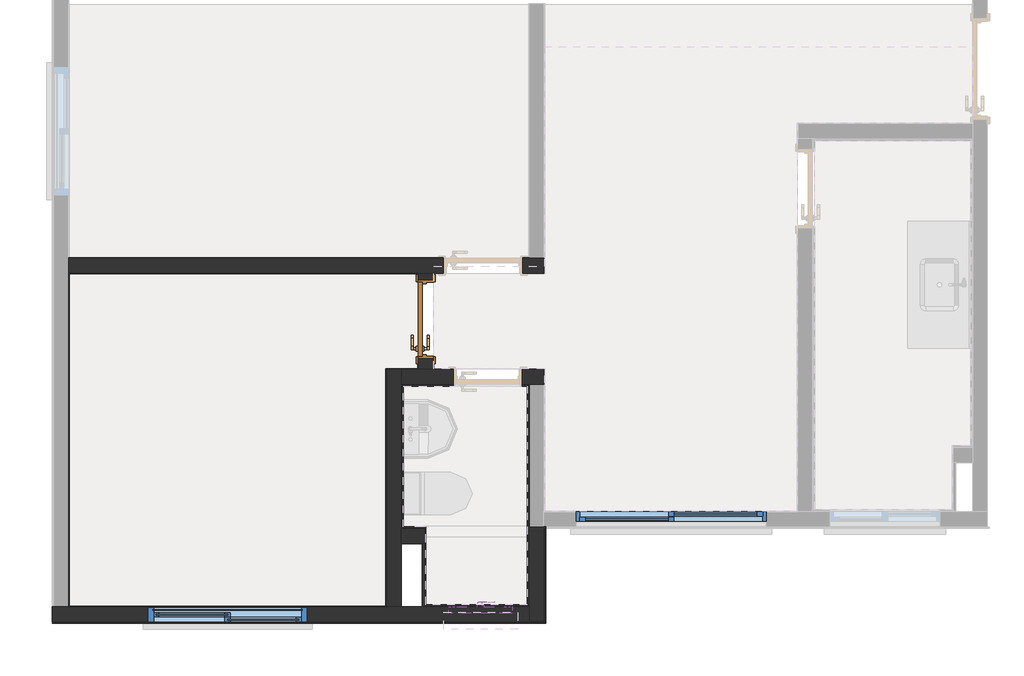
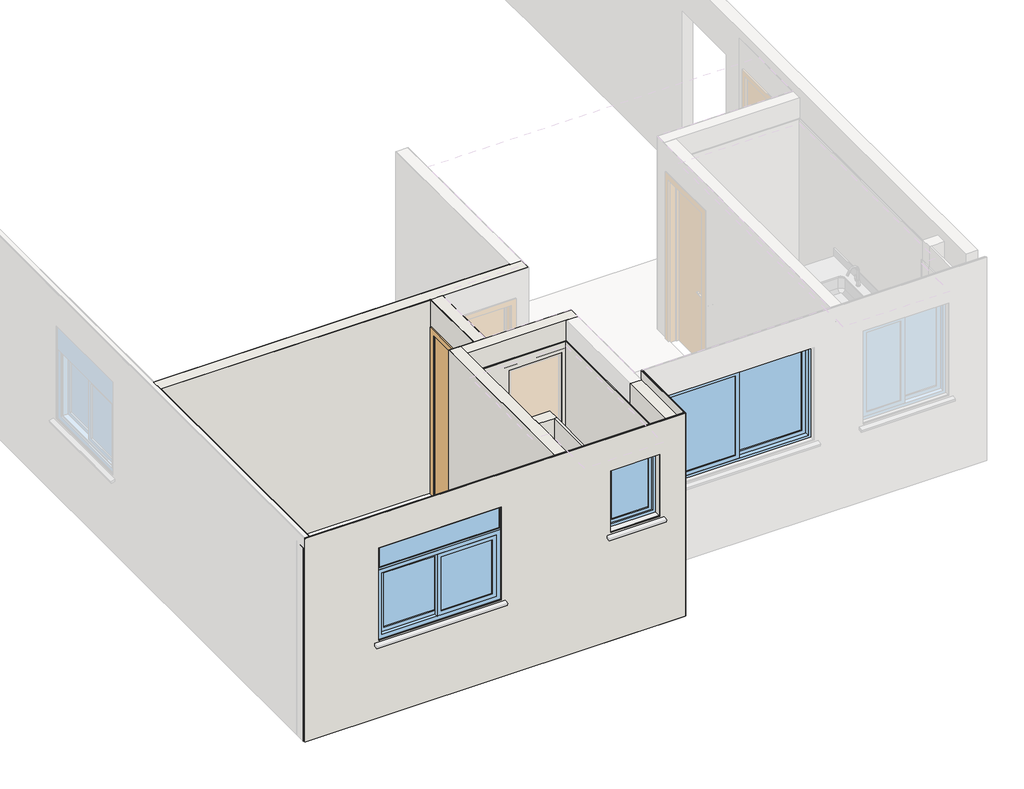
# One storey, part 1 of 11: 26 walls, 3 windows, 1 door.
"""IFC4 building model written with IfcOpenShell, lengths in millimetres."""

from ifc_helpers import new_model, si_unit, frame, origin, origin_with_axes, place, context, project, spatial, polyline, outline, extrude, faceted_brep, transform, mapped, element, save
from components import porta_de_madeira_interna_70_x_210_porta_de_madeira_interna_d0067c94, window_150x120_581fea6a, window_180x120_f0fd8075, window_60x80_d31b0025

model = new_model("IFC4")

# Units and contexts
model_context = context("Model", 3, world=origin())
ifc_project = project(units=[si_unit("LENGTHUNIT", "METRE", prefix="MILLI")], contexts=[model_context])

# Site, building, storey
site = spatial("IfcSite", under=ifc_project)
building = spatial("IfcBuilding", under=site)
storey = spatial("IfcBuildingStorey", under=building, Name="Térreo", Elevation=0.0)

# Door
placement = place(None, origin())
porta_de_madeira_interna_70_x_210_porta_de_madeira_interna_shape = porta_de_madeira_interna_70_x_210_porta_de_madeira_interna_d0067c94(model_context)
element("IfcDoor", 1, ObjectType="Porta de Madeira Interna 70 x 210 : Porta de Madeira Interna 70 x 210", at=placement, inside=storey, context=model_context, shape_type="MappedRepresentation", body=[
    mapped(porta_de_madeira_interna_70_x_210_porta_de_madeira_interna_shape, transform((3546.8230641, 3342.9958256, 0.0), x_axis=(0.0, 1.0, 0.0), y_axis=(-1.0, 0.0, 0.0), z_axis=(0.0, 0.0, 1.0))),
])

# Walls
element("IfcWall", 2, ObjectType="Mureta box", at=placement, inside=storey, context=model_context, shape_type="SweptSolid", body=[
    extrude(outline(polyline([(4509.99398, 1294.9970972), (3529.99398, 1294.9970972), (3529.99398, 1304.9970972), (4509.99398, 1304.9970972), (4509.99398, 1294.9970972)])), origin_with_axes(), (0.0, 0.0, 1.0), 90.0),
    extrude(outline(polyline([(3529.99398, 1374.9970972), (4509.99398, 1374.9970972), (4509.99398, 1364.9970972), (3529.99398, 1364.9970972), (3529.99398, 1374.9970972)])), origin_with_axes(), (0.0, 0.0, 1.0), 90.0),
    extrude(outline(polyline([(3529.99398, 1304.9970972), (3529.99398, 1364.9970972), (4509.99398, 1364.9970972), (4509.99398, 1304.9970972), (3529.99398, 1304.9970972)])), origin_with_axes(), (0.0, 0.0, 1.0), 90.0),
    extrude(outline(polyline([(4509.99398, 1294.9970972), (3529.99398, 1294.9970972), (3529.99398, 1304.9970972), (4509.99398, 1304.9970972), (4509.99398, 1294.9970972)])), origin_with_axes(), (0.0, 0.0, 1.0), 90.0),
    extrude(outline(polyline([(3529.99398, 1374.9970972), (4509.99398, 1374.9970972), (4509.99398, 1364.9970972), (3529.99398, 1364.9970972), (3529.99398, 1374.9970972)])), origin_with_axes(), (0.0, 0.0, 1.0), 90.0),
    extrude(outline(polyline([(3529.99398, 1304.9970972), (3529.99398, 1364.9970972), (4509.99398, 1364.9970972), (4509.99398, 1304.9970972), (3529.99398, 1304.9970972)])), origin_with_axes(), (0.0, 0.0, 1.0), 90.0),
])
element("IfcWall", 3, ObjectType="Alvenaria Estrutural", at=placement, inside=storey, context=model_context, shape_type="Brep", body=[
    faceted_brep([(175.9991825, 3779.9951411, 0.0), (169.9991825, 3779.9951411, 0.0), (169.9991825, 3919.9951411, 0.0), (175.9991825, 3919.9951411, 0.0), (3717.999908, 3919.9951411, 0.0), (3717.999908, 3779.9951411, 0.0), (3625.9980641, 3779.9951411, 0.0), (3619.9980641, 3779.9951411, 0.0), (3479.9980641, 3779.9951411, 0.0), (3473.9980641, 3779.9951411, 0.0), (3625.9980641, 3779.9951411, 2510.0), (4669.9996867, 3779.9951411, 2510.0), (4669.9996867, 3919.9951411, 2510.0), (4529.9996867, 3919.9951411, 2510.0), (4523.9996867, 3919.9951411, 2510.0), (175.9991825, 3919.9951411, 2510.0), (169.9991825, 3919.9951411, 2510.0), (169.9991825, 3779.9951411, 2510.0), (175.9991825, 3779.9951411, 2510.0), (3473.9980641, 3779.9951411, 2510.0), (3479.9980641, 3779.9951411, 2510.0), (3619.9980641, 3779.9951411, 2510.0), (4467.999908, 3779.9951411, 0.0), (4467.999908, 3779.9951411, 2125.0), (4467.999908, 3919.9951411, 2125.0), (4467.999908, 3919.9951411, 0.0), (3717.999908, 3779.9951411, 2125.0), (3717.999908, 3919.9951411, 2125.0), (4669.9996867, 3779.9951411, 0.0), (4523.9996867, 3919.9951411, 0.0), (4529.9996867, 3919.9951411, 0.0), (4669.9996867, 3919.9951411, 0.0)], [[[0, 1, 2, 3, 4, 5, 6, 7, 8, 9]], [[10, 11, 12, 13, 14, 15, 16, 17, 18, 19, 20, 21]], [[22, 23, 24, 25]], [[23, 26, 27, 24]], [[26, 5, 4, 27]], [[28, 22, 25, 29, 30, 31]], [[16, 15, 14, 13, 12, 31, 30, 29, 25, 24, 27, 4, 3, 2]], [[11, 10, 21, 20, 19, 18, 17, 1, 0, 9, 8, 7, 6, 5, 26, 23, 22, 28]], [[11, 28, 31, 12]], [[1, 17, 16, 2]]]),
    faceted_brep([(4669.9996867, 3779.9951411, 2510.0), (3625.9980641, 3779.9951411, 2510.0), (3619.9980641, 3779.9951411, 2510.0), (3479.9980641, 3779.9951411, 2510.0), (3473.9980641, 3779.9951411, 2510.0), (175.9991825, 3779.9951411, 2510.0), (169.9991825, 3779.9951411, 2510.0), (169.9991825, 3779.9951411, 0.0), (175.9991825, 3779.9951411, 0.0), (3473.9980641, 3779.9951411, 0.0), (3479.9980641, 3779.9951411, 0.0), (3619.9980641, 3779.9951411, 0.0), (3625.9980641, 3779.9951411, 0.0), (3717.999908, 3779.9951411, 0.0), (3717.999908, 3779.9951411, 2125.0), (4467.999908, 3779.9951411, 2125.0), (4467.999908, 3779.9951411, 0.0), (4669.9996867, 3779.9951411, 0.0), (169.9991825, 3919.9951411, 2510.0), (175.9991825, 3919.9951411, 2510.0), (4523.9996867, 3919.9951411, 2510.0), (4529.9996867, 3919.9951411, 2510.0), (4669.9996867, 3919.9951411, 2510.0), (4669.9996867, 3919.9951411, 0.0), (4529.9996867, 3919.9951411, 0.0), (4523.9996867, 3919.9951411, 0.0), (4467.999908, 3919.9951411, 0.0), (4467.999908, 3919.9951411, 2125.0), (3717.999908, 3919.9951411, 2125.0), (3717.999908, 3919.9951411, 0.0), (175.9991825, 3919.9951411, 0.0), (169.9991825, 3919.9951411, 0.0)], [[[0, 1, 2, 3, 4, 5, 6, 7, 8, 9, 10, 11, 12, 13, 14, 15, 16, 17]], [[18, 19, 20, 21, 22, 23, 24, 25, 26, 27, 28, 29, 30, 31]], [[8, 7, 31, 30, 29, 13, 12, 11, 10, 9]], [[1, 0, 22, 21, 20, 19, 18, 6, 5, 4, 3, 2]], [[16, 15, 27, 26]], [[15, 14, 28, 27]], [[14, 13, 29, 28]], [[0, 17, 23, 22]], [[7, 6, 18, 31]], [[17, 16, 26, 25, 24, 23]]]),
])
element("IfcWall", 4, ObjectType="Alvenaria Estrutural", at=placement, inside=storey, context=model_context, shape_type="Brep", body=[
    faceted_brep([(3479.9980641, 2875.9967615, 2510.0), (3479.9980641, 2869.9967615, 2510.0), (3619.9980641, 2869.9967615, 2510.0), (3619.9980641, 2875.9967615, 2510.0), (3619.9980641, 3773.9951411, 2510.0), (3619.9980641, 3779.9951411, 2510.0), (3479.9980641, 3779.9951411, 2510.0), (3479.9980641, 3717.9958256, 2125.0), (3479.9980641, 3717.9958256, 0.0), (3619.9980641, 3717.9958256, 0.0), (3619.9980641, 3717.9958256, 2125.0), (3479.9980641, 2967.9958256, 2125.0), (3619.9980641, 2967.9958256, 2125.0), (3479.9980641, 2967.9958256, 0.0), (3619.9980641, 2967.9958256, 0.0), (3619.9980641, 2869.9967615, 0.0), (3619.9980641, 2875.9967615, 0.0), (3619.9980641, 3773.9951411, 0.0), (3619.9980641, 3779.9951411, 0.0), (3479.9980641, 3779.9951411, 0.0), (3479.9980641, 2875.9967615, 0.0), (3479.9980641, 2869.9967615, 0.0)], [[[0, 1, 2, 3, 4, 5, 6]], [[7, 8, 9, 10]], [[11, 7, 10, 12]], [[13, 11, 12, 14]], [[5, 4, 3, 2, 15, 16, 14, 12, 10, 9, 17, 18]], [[1, 0, 6, 19, 8, 7, 11, 13, 20, 21]], [[8, 19, 18, 17, 9]], [[1, 21, 15, 2]], [[19, 6, 5, 18]], [[20, 13, 14, 16, 15, 21]]]),
    faceted_brep([(3479.9980641, 2869.9967615, 2510.0), (3479.9980641, 2875.9967615, 2510.0), (3479.9980641, 3779.9951411, 2510.0), (3479.9980641, 3779.9951411, 0.0), (3479.9980641, 3717.9958256, 0.0), (3479.9980641, 3717.9958256, 2125.0), (3479.9980641, 2967.9958256, 2125.0), (3479.9980641, 2967.9958256, 0.0), (3479.9980641, 2875.9967615, 0.0), (3479.9980641, 2869.9967615, 0.0), (3619.9980641, 3779.9951411, 2510.0), (3619.9980641, 3773.9951411, 2510.0), (3619.9980641, 2875.9967615, 2510.0), (3619.9980641, 2869.9967615, 2510.0), (3619.9980641, 2869.9967615, 0.0), (3619.9980641, 2875.9967615, 0.0), (3619.9980641, 2967.9958256, 0.0), (3619.9980641, 2967.9958256, 2125.0), (3619.9980641, 3717.9958256, 2125.0), (3619.9980641, 3717.9958256, 0.0), (3619.9980641, 3773.9951411, 0.0), (3619.9980641, 3779.9951411, 0.0)], [[[0, 1, 2, 3, 4, 5, 6, 7, 8, 9]], [[10, 11, 12, 13, 14, 15, 16, 17, 18, 19, 20, 21]], [[4, 3, 21, 20, 19]], [[1, 0, 13, 12, 11, 10, 2]], [[5, 4, 19, 18]], [[6, 5, 18, 17]], [[7, 6, 17, 16]], [[0, 9, 14, 13]], [[3, 2, 10, 21]], [[8, 7, 16, 15, 14, 9]]]),
])
element("IfcWall", 5, ObjectType="Alvenaria Estrutural", at=placement, inside=storey, context=model_context, shape_type="Brep", body=[
    faceted_brep([(3319.9976538, 1219.9970972, 0.0), (3516.99398, 1219.9970972, 0.0), (3539.99398, 1219.9970972, 0.0), (3539.99398, 1219.9970972, 2510.0), (3516.99398, 1219.9970972, 2510.0), (3319.9976538, 1219.9970972, 2510.0), (3319.9976538, 1359.9970972, 0.0), (3539.99398, 1359.9970972, 0.0), (3539.99398, 1359.9970972, 2510.0), (3319.9976538, 1359.9970972, 2510.0)], [[[0, 1, 2, 3, 4, 5]], [[1, 0, 6, 7, 2]], [[4, 3, 8, 9, 5]], [[6, 9, 8, 7]], [[3, 2, 7, 8]], [[0, 5, 9, 6]]]),
    faceted_brep([(3319.9976538, 1219.9970972, 0.0), (3516.99398, 1219.9970972, 0.0), (3539.99398, 1219.9970972, 0.0), (3539.99398, 1219.9970972, 2510.0), (3516.99398, 1219.9970972, 2510.0), (3319.9976538, 1219.9970972, 2510.0), (3319.9976538, 1359.9970972, 0.0), (3319.9976538, 1359.9970972, 2510.0), (3539.99398, 1359.9970972, 2510.0), (3539.99398, 1359.9970972, 0.0)], [[[0, 1, 2, 3, 4, 5]], [[6, 7, 8, 9]], [[1, 0, 6, 9, 2]], [[4, 3, 8, 7, 5]], [[3, 2, 9, 8]], [[0, 5, 7, 6]]]),
])
element("IfcWall", 6, ObjectType="Alvenaria Estrutural", at=placement, inside=storey, context=model_context, shape_type="Brep", body=[
    faceted_brep([(3319.9976538, 1219.9970972, 0.0), (3319.9976538, 619.9952456, 0.0), (3179.9976538, 619.9952456, 0.0), (3179.9976538, 625.9952456, 0.0), (3179.9976538, 2869.9967615, 0.0), (3319.9976538, 2869.9967615, 0.0), (3319.9976538, 2729.9967615, 0.0), (3319.9976538, 2709.9967615, 0.0), (3319.9976538, 1379.9970972, 0.0), (3319.9976538, 1359.9970972, 0.0), (3319.9976538, 2729.9967615, 2510.0), (3319.9976538, 2869.9967615, 2510.0), (3179.9976538, 2869.9967615, 2510.0), (3179.9976538, 625.9952456, 2510.0), (3179.9976538, 619.9952456, 2510.0), (3319.9976538, 619.9952456, 2510.0), (3319.9976538, 1219.9970972, 2510.0), (3319.9976538, 1359.9970972, 2510.0)], [[[0, 1, 2, 3, 4, 5, 6, 7, 8, 9]], [[10, 11, 12, 13, 14, 15, 16, 17]], [[1, 0, 9, 8, 7, 6, 5, 11, 10, 17, 16, 15]], [[2, 14, 13, 12, 4, 3]], [[11, 5, 4, 12]], [[1, 15, 14, 2]]]),
    faceted_brep([(3319.9976538, 619.9952456, 0.0), (3319.9976538, 1219.9970972, 0.0), (3319.9976538, 1359.9970972, 0.0), (3319.9976538, 1379.9970972, 0.0), (3319.9976538, 2709.9967615, 0.0), (3319.9976538, 2729.9967615, 0.0), (3319.9976538, 2869.9967615, 0.0), (3319.9976538, 2869.9967615, 2510.0), (3319.9976538, 2729.9967615, 2510.0), (3319.9976538, 1359.9970972, 2510.0), (3319.9976538, 1219.9970972, 2510.0), (3319.9976538, 619.9952456, 2510.0), (3179.9976538, 619.9952456, 0.0), (3179.9976538, 619.9952456, 2510.0), (3179.9976538, 625.9952456, 2510.0), (3179.9976538, 2869.9967615, 2510.0), (3179.9976538, 2869.9967615, 0.0), (3179.9976538, 625.9952456, 0.0)], [[[0, 1, 2, 3, 4, 5, 6, 7, 8, 9, 10, 11]], [[12, 13, 14, 15, 16, 17]], [[1, 0, 12, 17, 16, 6, 5, 4, 3, 2]], [[8, 7, 15, 14, 13, 11, 10, 9]], [[7, 6, 16, 15]], [[0, 11, 13, 12]]]),
])
element("IfcWall", 7, ObjectType="Alvenaria Estrutural", at=placement, inside=storey, context=model_context, shape_type="Brep", body=[
    faceted_brep([(3812.9990083, 2729.9967615, 0.0), (3319.9976538, 2729.9967615, 0.0), (3319.9976538, 2869.9967615, 0.0), (3479.9980641, 2869.9967615, 0.0), (3619.9980641, 2869.9967615, 0.0), (3625.9980641, 2869.9967615, 0.0), (3812.9990083, 2869.9967615, 0.0), (4529.9990083, 2729.9967615, 2510.0), (4669.9990083, 2729.9967615, 2510.0), (4669.9990083, 2869.9967615, 2510.0), (3625.9980641, 2869.9967615, 2510.0), (3619.9980641, 2869.9967615, 2510.0), (3479.9980641, 2869.9967615, 2510.0), (3319.9976538, 2869.9967615, 2510.0), (3319.9976538, 2729.9967615, 2510.0), (4462.9990083, 2729.9967615, 0.0), (4462.9990083, 2729.9967615, 2125.0), (4462.9990083, 2869.9967615, 2125.0), (4462.9990083, 2869.9967615, 0.0), (3812.9990083, 2729.9967615, 2125.0), (3812.9990083, 2869.9967615, 2125.0), (4529.9990083, 2729.9967615, 0.0), (4669.9990083, 2869.9967615, 0.0), (4669.9990083, 2729.9967615, 0.0)], [[[0, 1, 2, 3, 4, 5, 6]], [[7, 8, 9, 10, 11, 12, 13, 14]], [[15, 16, 17, 18]], [[16, 19, 20, 17]], [[19, 0, 6, 20]], [[21, 15, 18, 22, 23]], [[13, 12, 11, 10, 9, 22, 18, 17, 20, 6, 5, 4, 3, 2]], [[8, 7, 14, 1, 0, 19, 16, 15, 21, 23]], [[8, 23, 22, 9]], [[1, 14, 13, 2]]]),
    faceted_brep([(4669.9990083, 2729.9967615, 2510.0), (4529.9990083, 2729.9967615, 2510.0), (3319.9976538, 2729.9967615, 2510.0), (3319.9976538, 2729.9967615, 0.0), (3812.9990083, 2729.9967615, 0.0), (3812.9990083, 2729.9967615, 2125.0), (4462.9990083, 2729.9967615, 2125.0), (4462.9990083, 2729.9967615, 0.0), (4529.9990083, 2729.9967615, 0.0), (4669.9990083, 2729.9967615, 0.0), (3319.9976538, 2869.9967615, 2510.0), (3479.9980641, 2869.9967615, 2510.0), (3619.9980641, 2869.9967615, 2510.0), (3625.9980641, 2869.9967615, 2510.0), (4669.9990083, 2869.9967615, 2510.0), (4669.9990083, 2869.9967615, 0.0), (4462.9990083, 2869.9967615, 0.0), (4462.9990083, 2869.9967615, 2125.0), (3812.9990083, 2869.9967615, 2125.0), (3812.9990083, 2869.9967615, 0.0), (3625.9980641, 2869.9967615, 0.0), (3619.9980641, 2869.9967615, 0.0), (3479.9980641, 2869.9967615, 0.0), (3319.9976538, 2869.9967615, 0.0)], [[[0, 1, 2, 3, 4, 5, 6, 7, 8, 9]], [[10, 11, 12, 13, 14, 15, 16, 17, 18, 19, 20, 21, 22, 23]], [[4, 3, 23, 22, 21, 20, 19]], [[1, 0, 14, 13, 12, 11, 10, 2]], [[7, 6, 17, 16]], [[6, 5, 18, 17]], [[5, 4, 19, 18]], [[0, 9, 15, 14]], [[3, 2, 10, 23]], [[8, 7, 16, 15, 9]]]),
])
element("IfcWall", 8, ObjectType="Alvenaria Estrutural", at=placement, inside=storey, context=model_context, shape_type="Brep", body=[
    faceted_brep([(4669.9986472, 1374.9970972, 0.0), (4669.9986472, 479.9952456, 0.0), (4529.9986472, 479.9952456, 0.0), (4529.9986472, 619.9952456, 0.0), (4529.9986472, 1374.9970972, 0.0), (4669.9986472, 1374.9970972, 2510.0), (4529.9986472, 1374.9970972, 2510.0), (4669.9986472, 479.9952456, 2510.0), (4529.9986472, 619.9952456, 2510.0), (4529.9986472, 479.9952456, 2510.0)], [[[0, 1, 2, 3, 4]], [[5, 0, 4, 6]], [[7, 5, 6, 8, 9]], [[2, 9, 8, 6, 4, 3]], [[1, 0, 5, 7]], [[1, 7, 9, 2]]]),
    faceted_brep([(4669.9986472, 479.9952456, 0.0), (4669.9986472, 1374.9970972, 0.0), (4669.9986472, 1374.9970972, 2510.0), (4669.9986472, 479.9952456, 2510.0), (4529.9986472, 479.9952456, 0.0), (4529.9986472, 479.9952456, 2510.0), (4529.9986472, 619.9952456, 2510.0), (4529.9986472, 1374.9970972, 2510.0), (4529.9986472, 1374.9970972, 0.0), (4529.9986472, 619.9952456, 0.0)], [[[0, 1, 2, 3]], [[4, 5, 6, 7, 8, 9]], [[1, 0, 4, 9, 8]], [[2, 1, 8, 7]], [[3, 2, 7, 6, 5]], [[0, 3, 5, 4]]]),
])
element("IfcWall", 9, ObjectType="Alvenaria Estrutural", at=placement, inside=storey, context=model_context, shape_type="Brep", body=[
    faceted_brep([(14.9976538, 479.9952456, 0.0), (4529.9986472, 479.9952456, 0.0), (4529.9986472, 479.9952456, 2510.0), (14.9976538, 479.9952456, 2510.0), (3719.9986472, 479.9952456, 1351.3083694), (3719.9986472, 479.9952456, 1400.0), (3769.9986472, 479.9952456, 1400.0), (3769.9986472, 479.9952456, 2200.0), (4369.9986472, 479.9952456, 2200.0), (4369.9986472, 479.9952456, 1400.0), (4419.9986472, 479.9952456, 1400.0), (4419.9986472, 479.9952456, 1351.3083694), (874.9984443, 479.9952456, 951.3083694), (874.9984443, 479.9952456, 1000.0), (924.9984443, 479.9952456, 1000.0), (924.9984443, 479.9952456, 2200.0), (2424.9984443, 479.9952456, 2200.0), (2424.9984443, 479.9952456, 1000.0), (2474.9984443, 479.9952456, 1000.0), (2474.9984443, 479.9952456, 951.3083694), (4529.9986472, 619.9952456, 0.0), (4509.9990083, 619.9952456, 0.0), (3539.99398, 619.9952456, 0.0), (3516.99398, 619.9952456, 0.0), (3319.9976538, 619.9952456, 0.0), (3179.9976538, 619.9952456, 0.0), (175.9991825, 619.9952456, 0.0), (169.9991825, 619.9952456, 0.0), (14.9976538, 619.9952456, 0.0), (14.9976538, 619.9952456, 2510.0), (169.9991825, 619.9952456, 2510.0), (175.9991825, 619.9952456, 2510.0), (3179.9976538, 619.9952456, 2510.0), (3319.9976538, 619.9952456, 2510.0), (3516.99398, 619.9952456, 2510.0), (3539.99398, 619.9952456, 2510.0), (4529.9986472, 619.9952456, 2510.0), (4529.9986472, 619.9952456, 2250.0), (4369.9986472, 619.9952456, 1400.0), (4369.9986472, 619.9952456, 2200.0), (3769.9986472, 619.9952456, 2200.0), (3769.9986472, 619.9952456, 1400.0), (2424.9984443, 619.9952456, 1000.0), (2424.9984443, 619.9952456, 2200.0), (924.9984443, 619.9952456, 2200.0), (924.9984443, 619.9952456, 1000.0), (4529.9986472, 480.9952456, 0.0), (4529.9986472, 480.9952456, 2510.0), (874.9984443, 577.4952456, 972.0326341), (874.9984443, 577.4952456, 1000.0), (2474.9984443, 577.4952456, 1000.0), (2474.9984443, 577.4952456, 972.0326341), (2424.9984443, 577.4952456, 1000.0), (924.9984443, 577.4952456, 1000.0), (3719.9986472, 577.4952456, 1372.0326341), (3719.9986472, 577.4952456, 1400.0), (4419.9986472, 577.4952456, 1400.0), (4419.9986472, 577.4952456, 1372.0326341), (4369.9986472, 577.4952456, 1400.0), (3769.9986472, 577.4952456, 1400.0)], [[[0, 1, 2, 3], [4, 5, 6, 7, 8, 9, 10, 11], [12, 13, 14, 15, 16, 17, 18, 19]], [[20, 21, 22, 23, 24, 25, 26, 27, 28, 29, 30, 31, 32, 33, 34, 35, 36, 37], [38, 39, 40, 41], [42, 43, 44, 45]], [[1, 0, 28, 27, 26, 25, 24, 23, 22, 21, 20, 46]], [[29, 3, 2, 47, 36, 35, 34, 33, 32, 31, 30]], [[13, 12, 48, 49]], [[19, 18, 50, 51]], [[49, 48, 51, 50, 52, 53]], [[14, 13, 49, 53]], [[12, 19, 51, 48]], [[17, 16, 43, 42, 52]], [[16, 15, 44, 43]], [[15, 14, 53, 45, 44]], [[42, 45, 53, 52]], [[5, 4, 54, 55]], [[11, 10, 56, 57]], [[55, 54, 57, 56, 58, 59]], [[6, 5, 55, 59]], [[4, 11, 57, 54]], [[9, 8, 39, 38, 58]], [[8, 7, 40, 39]], [[7, 6, 59, 41, 40]], [[38, 41, 59, 58]], [[2, 1, 46, 20, 37, 36, 47]], [[10, 9, 58, 56]], [[18, 17, 52, 50]], [[0, 3, 29, 28]]]),
])
element("IfcWall", 10, ObjectType="Azulejo", at=placement, inside=storey, context=model_context, shape_type="SolidModel", body=[
    faceted_brep([(3812.9990083, 2719.9967615, 0.0), (3812.9990083, 2709.9967615, 0.0), (3339.9976538, 2709.9967615, 0.0), (3329.9976538, 2709.9967615, 0.0), (3329.9976538, 2719.9967615, 0.0), (3339.9976538, 2709.9967615, 2250.0), (4509.9990083, 2709.9967615, 2250.0), (4519.9990083, 2709.9967615, 2250.0), (4519.9990083, 2719.9967615, 2250.0), (3329.9976538, 2719.9967615, 2250.0), (3329.9976538, 2709.9967615, 2250.0), (4462.9990083, 2709.9967615, 0.0), (4462.9990083, 2709.9967615, 2125.0), (4462.9990083, 2719.9967615, 2125.0), (4462.9990083, 2719.9967615, 0.0), (3812.9990083, 2709.9967615, 2125.0), (3812.9990083, 2719.9967615, 2125.0), (4519.9990083, 2719.9967615, 0.0), (4519.9990083, 2709.9967615, 0.0), (4509.9990083, 2709.9967615, 0.0)], [[[0, 1, 2, 3, 4]], [[5, 6, 7, 8, 9, 10]], [[11, 12, 13, 14]], [[13, 12, 15, 16]], [[1, 0, 16, 15]], [[11, 14, 17, 18, 19]], [[14, 13, 16, 0, 4, 9, 8, 17]], [[2, 1, 15, 12, 11, 19, 18, 7, 6, 5, 10, 3]], [[4, 3, 10, 9]], [[8, 7, 18, 17]]]),
    extrude(outline(polyline([(0.0, 3319.9976538), (0.0, 3812.9990083), (2125.0, 3812.9990083), (2125.0, 4462.9990083), (0.0, 4462.9990083), (0.0, 4529.9990083), (2250.0, 4529.9990083), (2250.0, 3319.9976538), (0.0, 3319.9976538)])), frame((0.0, 2719.9967615, 0.0), z_axis=(0.0, 1.0, 0.0), x_axis=(0.0, 0.0, 1.0)), (0.0, 0.0, 1.0), 10.0),
])
element("IfcWall", 11, ObjectType="Azulejo", at=placement, inside=storey, context=model_context, shape_type="SolidModel", body=[
    faceted_brep([(4509.9990083, 639.9950349, 0.0), (4509.9990083, 2709.9967615, 0.0), (4519.9990083, 2709.9967615, 0.0), (4519.9990083, 629.9950349, 0.0), (4509.9990083, 629.9950349, 0.0), (4519.9990083, 2709.9967615, 2250.0), (4509.9990083, 2709.9967615, 2250.0), (4509.9990083, 639.9950349, 2250.0), (4509.9990083, 629.9950349, 2250.0), (4519.9990083, 629.9950349, 2250.0)], [[[0, 1, 2, 3, 4]], [[5, 6, 7, 8, 9]], [[2, 1, 6, 5]], [[2, 5, 9, 3]], [[1, 0, 4, 8, 7, 6]], [[4, 3, 9, 8]]]),
    extrude(outline(polyline([(4529.9990083, 2719.9967615), (4529.9990083, 619.9952456), (4519.9990083, 619.9952456), (4519.9990083, 2719.9967615), (4529.9990083, 2719.9967615)])), origin_with_axes(), (0.0, 0.0, 1.0), 2250.0),
])
element("IfcWall", 12, ObjectType="Azulejo", at=placement, inside=storey, context=model_context, shape_type="SolidModel", body=[
    faceted_brep([(3549.99398, 639.9950349, 0.0), (4509.9990083, 639.9950349, 0.0), (4509.9990083, 629.9950349, 0.0), (3539.99398, 629.9950349, 0.0), (3539.99398, 639.9950349, 0.0), (3549.99398, 639.9950349, 2250.0), (3539.99398, 639.9950349, 2250.0), (3539.99398, 629.9950349, 2250.0), (4509.9990083, 629.9950349, 2250.0), (4509.9990083, 639.9950349, 2250.0), (4369.9986472, 639.9950349, 2200.0), (4369.9986472, 639.9950349, 1400.0), (4369.9986472, 629.9950349, 1400.0), (4369.9986472, 629.9950349, 2200.0), (3769.9986472, 639.9950349, 2200.0), (3769.9986472, 629.9950349, 2200.0), (3769.9986472, 639.9950349, 1400.0), (3769.9986472, 629.9950349, 1400.0)], [[[0, 1, 2, 3, 4]], [[5, 6, 7, 8, 9]], [[1, 9, 8, 2]], [[6, 4, 3, 7]], [[10, 11, 12, 13]], [[14, 10, 13, 15]], [[16, 14, 15, 17]], [[11, 16, 17, 12]], [[3, 2, 8, 7], [13, 12, 17, 15]], [[1, 0, 4, 6, 5, 9], [11, 10, 14, 16]]]),
    extrude(outline(polyline([(0.0, 4519.9990083), (2250.0, 4519.9990083), (2250.0, 3539.99398), (0.0, 3539.99398), (0.0, 4519.9990083)]), holes=[polyline([(1400.0, 4369.9986472), (1400.0, 3769.9986472), (2200.0, 3769.9986472), (2200.0, 4369.9986472), (1400.0, 4369.9986472)])]), frame((0.0, 619.9950349, 0.0), z_axis=(0.0, 1.0, 0.0), x_axis=(0.0, 0.0, 1.0)), (0.0, 0.0, 1.0), 10.0),
])
element("IfcWall", 13, ObjectType="Azulejo", at=placement, inside=storey, context=model_context, shape_type="SweptSolid", body=[
    extrude(outline(polyline([(3549.99398, 1369.9970972), (3549.99398, 1219.9970972), (3539.99398, 1219.9970972), (3539.99398, 1369.9970972), (3549.99398, 1369.9970972)])), origin_with_axes(), (0.0, 0.0, 1.0), 2250.0),
    extrude(outline(polyline([(3529.99398, 1219.9970972), (3529.99398, 1359.9970972), (3539.99398, 1359.9970972), (3539.99398, 1219.9970972), (3529.99398, 1219.9970972)])), origin_with_axes(), (0.0, 0.0, 1.0), 2250.0),
])
element("IfcWall", 14, ObjectType="Azulejo", at=placement, inside=storey, context=model_context, shape_type="Brep", body=[
    faceted_brep([(3339.9976538, 1379.9970972, 0.0), (3549.99398, 1379.9970972, 0.0), (3549.99398, 1369.9970972, 0.0), (3329.9976538, 1369.9970972, 0.0), (3329.9976538, 1379.9970972, 0.0), (3549.99398, 1369.9970972, 2250.0), (3549.99398, 1379.9970972, 2250.0), (3339.9976538, 1379.9970972, 2250.0), (3329.9976538, 1379.9970972, 2250.0), (3329.9976538, 1369.9970972, 2250.0)], [[[0, 1, 2, 3, 4]], [[5, 6, 7, 8, 9]], [[2, 1, 6, 5]], [[2, 5, 9, 3]], [[1, 0, 4, 8, 7, 6]], [[4, 3, 9, 8]]]),
    faceted_brep([(3539.99398, 1369.9970972, 0.0), (3319.9976538, 1369.9970972, 0.0), (3319.9976538, 1369.9970972, 2250.0), (3539.99398, 1369.9970972, 2250.0), (3319.9976538, 1359.9970972, 0.0), (3529.99398, 1359.9970972, 0.0), (3539.99398, 1359.9970972, 0.0), (3539.99398, 1359.9970972, 2250.0), (3529.99398, 1359.9970972, 2250.0), (3319.9976538, 1359.9970972, 2250.0)], [[[0, 1, 2, 3]], [[4, 5, 6, 7, 8, 9]], [[5, 4, 1, 0, 6]], [[8, 7, 3, 2, 9]], [[4, 9, 2, 1]], [[7, 6, 0, 3]]]),
])
element("IfcWall", 15, ObjectType="Azulejo", at=placement, inside=storey, context=model_context, shape_type="SweptSolid", body=[
    extrude(outline(polyline([(3339.9976538, 2709.9967615), (3339.9976538, 1379.9970972), (3329.9976538, 1379.9970972), (3329.9976538, 2709.9967615), (3339.9976538, 2709.9967615)])), origin_with_axes(), (0.0, 0.0, 1.0), 2250.0),
    extrude(outline(polyline([(3319.9976538, 1369.9970972), (3319.9976538, 2719.9967615), (3329.9976538, 2719.9967615), (3329.9976538, 1369.9970972), (3319.9976538, 1369.9970972)])), origin_with_axes(), (0.0, 0.0, 1.0), 2250.0),
])
element("IfcWall", 16, ObjectType="Azulejo - Shaft", at=placement, inside=storey, context=model_context, shape_type="SweptSolid", body=[
    extrude(outline(polyline([(3549.99398, 1219.9970972), (3549.99398, 639.9950349), (3539.99398, 639.9950349), (3539.99398, 1219.9970972), (3549.99398, 1219.9970972)])), origin_with_axes(), (0.0, 0.0, 1.0), 2250.0),
])
element("IfcWall", 17, ObjectType="Gesso Liso + Pintura", at=placement, inside=storey, context=model_context, shape_type="SweptSolid", body=[
    extrude(outline(polyline([(0.0, 169.9991825), (0.0, 3717.999908), (2125.0, 3717.999908), (2125.0, 4467.999908), (0.0, 4467.999908), (0.0, 4529.9996867), (2510.0, 4529.9996867), (2510.0, 169.9991825), (0.0, 169.9991825)])), frame((0.0, 3924.9951411, 0.0), z_axis=(0.0, 1.0, 0.0), x_axis=(0.0, 0.0, 1.0)), (0.0, 0.0, 1.0), 1.0),
    extrude(outline(polyline([(2510.0, 4529.9996867), (2510.0, 169.9991825), (0.0, 169.9991825), (0.0, 3717.999908), (2125.0, 3717.999908), (2125.0, 4467.999908), (0.0, 4467.999908), (0.0, 4529.9996867), (2510.0, 4529.9996867)])), frame((0.0, 3919.9951411, 0.0), z_axis=(0.0, 1.0, 0.0), x_axis=(0.0, 0.0, 1.0)), (0.0, 0.0, 1.0), 5.0),
])
element("IfcWall", 18, ObjectType="Gesso Liso + Pintura", at=placement, inside=storey, context=model_context, shape_type="SolidModel", body=[
    faceted_brep([(174.9991825, 3779.9951411, 0.0), (175.9991825, 3779.9951411, 0.0), (175.9991825, 625.9952456, 0.0), (175.9991825, 624.9952456, 0.0), (174.9991825, 624.9952456, 0.0), (175.9991825, 625.9952456, 2510.0), (175.9991825, 3779.9951411, 2510.0), (174.9991825, 3779.9951411, 2510.0), (174.9991825, 624.9952456, 2510.0), (175.9991825, 624.9952456, 2510.0)], [[[0, 1, 2, 3, 4]], [[5, 6, 7, 8, 9]], [[1, 0, 7, 6]], [[7, 0, 4, 8]], [[2, 1, 6, 5, 9, 3]], [[4, 3, 9, 8]]]),
    extrude(outline(polyline([(169.9991825, 619.9952456), (169.9991825, 3779.9951411), (174.9991825, 3779.9951411), (174.9991825, 619.9952456), (169.9991825, 619.9952456)])), origin_with_axes(), (0.0, 0.0, 1.0), 2510.0),
])
element("IfcWall", 19, ObjectType="Gesso Liso + Pintura", at=placement, inside=storey, context=model_context, shape_type="SolidModel", body=[
    faceted_brep([(175.9991825, 624.9952456, 0.0), (175.9991825, 625.9952456, 0.0), (3173.9976538, 625.9952456, 0.0), (3174.9976538, 625.9952456, 0.0), (3174.9976538, 624.9952456, 0.0), (3173.9976538, 625.9952456, 2510.0), (175.9991825, 625.9952456, 2510.0), (175.9991825, 624.9952456, 2510.0), (3174.9976538, 624.9952456, 2510.0), (3174.9976538, 625.9952456, 2510.0), (2424.9984443, 625.9952456, 2200.0), (2424.9984443, 625.9952456, 1000.0), (2424.9984443, 624.9952456, 1000.0), (2424.9984443, 624.9952456, 2200.0), (924.9984443, 624.9952456, 2200.0), (924.9984443, 625.9952456, 2200.0), (924.9984443, 624.9952456, 1000.0), (924.9984443, 625.9952456, 1000.0)], [[[0, 1, 2, 3, 4]], [[5, 6, 7, 8, 9]], [[1, 0, 7, 6]], [[10, 11, 12, 13]], [[10, 13, 14, 15]], [[15, 14, 16, 17]], [[12, 11, 17, 16]], [[7, 0, 4, 8], [13, 12, 16, 14]], [[2, 1, 6, 5, 9, 3], [11, 10, 15, 17]], [[4, 3, 9, 8]]]),
    extrude(outline(polyline([(0.0, 174.9991825), (0.0, 3179.9976538), (2510.0, 3179.9976538), (2510.0, 174.9991825), (0.0, 174.9991825)]), holes=[polyline([(1000.0, 2424.9984443), (1000.0, 924.9984443), (2200.0, 924.9984443), (2200.0, 2424.9984443), (1000.0, 2424.9984443)])]), frame((0.0, 619.9952456, 0.0), z_axis=(0.0, 1.0, 0.0), x_axis=(0.0, 0.0, 1.0)), (0.0, 0.0, 1.0), 5.0),
])
element("IfcWall", 20, ObjectType="Gesso Liso + Pintura", at=placement, inside=storey, context=model_context, shape_type="SolidModel", body=[
    extrude(outline(polyline([(3173.9976538, 625.9952456), (3173.9976538, 2875.9967615), (3174.9976538, 2875.9967615), (3174.9976538, 625.9952456), (3173.9976538, 625.9952456)])), origin_with_axes(), (0.0, 0.0, 1.0), 2510.0),
    faceted_brep([(3174.9976538, 2874.9967615, 0.0), (3174.9976538, 624.9952456, 0.0), (3174.9976538, 624.9952456, 2510.0), (3174.9976538, 2874.9967615, 2510.0), (3179.9976538, 624.9952456, 0.0), (3179.9976538, 2869.9967615, 0.0), (3179.9976538, 2874.9967615, 0.0), (3179.9976538, 2874.9967615, 2510.0), (3179.9976538, 2869.9967615, 2510.0), (3179.9976538, 624.9952456, 2510.0)], [[[0, 1, 2, 3]], [[4, 5, 6, 7, 8, 9]], [[5, 4, 1, 0, 6]], [[8, 7, 3, 2, 9]], [[4, 9, 2, 1]], [[7, 6, 0, 3]]]),
])
element("IfcWall", 21, ObjectType="Gesso Liso + Pintura", at=placement, inside=storey, context=model_context, shape_type="SolidModel", body=[
    faceted_brep([(3174.9976538, 2875.9967615, 0.0), (3473.9980641, 2875.9967615, 0.0), (3474.9980641, 2875.9967615, 0.0), (3474.9980641, 2874.9967615, 0.0), (3174.9976538, 2874.9967615, 0.0), (3473.9980641, 2875.9967615, 2510.0), (3174.9976538, 2875.9967615, 2510.0), (3174.9976538, 2874.9967615, 2510.0), (3474.9980641, 2874.9967615, 2510.0), (3474.9980641, 2875.9967615, 2510.0)], [[[0, 1, 2, 3, 4]], [[5, 6, 7, 8, 9]], [[7, 4, 3, 8]], [[1, 0, 6, 5, 9, 2]], [[6, 0, 4, 7]], [[3, 2, 9, 8]]]),
    extrude(outline(polyline([(3479.9980641, 2869.9967615), (3179.9976538, 2869.9967615), (3179.9976538, 2874.9967615), (3479.9980641, 2874.9967615), (3479.9980641, 2869.9967615)])), origin_with_axes(), (0.0, 0.0, 1.0), 2510.0),
])
element("IfcWall", 22, ObjectType="Gesso Liso + Pintura", at=placement, inside=storey, context=model_context, shape_type="SolidModel", body=[
    faceted_brep([(3473.9980641, 2875.9967615, 0.0), (3473.9980641, 2967.9958256, 0.0), (3474.9980641, 2967.9958256, 0.0), (3474.9980641, 2875.9967615, 0.0), (3473.9980641, 3773.9951411, 2510.0), (3473.9980641, 2875.9967615, 2510.0), (3474.9980641, 2875.9967615, 2510.0), (3474.9980641, 3774.9951411, 2510.0), (3473.9980641, 3774.9951411, 2510.0), (3473.9980641, 3717.9958256, 2125.0), (3473.9980641, 3717.9958256, 0.0), (3474.9980641, 3717.9958256, 0.0), (3474.9980641, 3717.9958256, 2125.0), (3474.9980641, 2967.9958256, 2125.0), (3473.9980641, 2967.9958256, 2125.0), (3473.9980641, 3773.9951411, 0.0), (3473.9980641, 3774.9951411, 0.0), (3474.9980641, 3774.9951411, 0.0)], [[[0, 1, 2, 3]], [[4, 5, 6, 7, 8]], [[9, 10, 11, 12]], [[9, 12, 13, 14]], [[2, 1, 14, 13]], [[0, 3, 6, 5]], [[11, 10, 15, 16, 17]], [[3, 2, 13, 12, 11, 17, 7, 6]], [[1, 0, 5, 4, 8, 16, 15, 10, 9, 14]], [[8, 7, 17, 16]]]),
    extrude(outline(polyline([(2967.9958256, 0.0), (2874.9967615, 0.0), (2874.9967615, 2510.0), (3779.9951411, 2510.0), (3779.9951411, 0.0), (3717.9958256, 0.0), (3717.9958256, 2125.0), (2967.9958256, 2125.0), (2967.9958256, 0.0)])), frame((3474.9980641, 0.0, 0.0), z_axis=(1.0, 0.0, 0.0), x_axis=(0.0, 1.0, 0.0)), (0.0, 0.0, 1.0), 5.0),
])
element("IfcWall", 23, ObjectType="Gesso Liso + Pintura", at=placement, inside=storey, context=model_context, shape_type="SweptSolid", body=[
    extrude(outline(polyline([(3473.9980641, 3773.9951411), (169.9991825, 3773.9951411), (169.9991825, 3774.9951411), (3473.9980641, 3774.9951411), (3473.9980641, 3773.9951411)])), origin_with_axes(), (0.0, 0.0, 1.0), 2510.0),
    extrude(outline(polyline([(169.9991825, 3779.9951411), (3474.9980641, 3779.9951411), (3474.9980641, 3774.9951411), (169.9991825, 3774.9951411), (169.9991825, 3779.9951411)])), origin_with_axes(), (0.0, 0.0, 1.0), 2510.0),
])
element("IfcWall", 24, ObjectType="Gesso Liso + Pintura", at=placement, inside=storey, context=model_context, shape_type="SweptSolid", body=[
    extrude(outline(polyline([(2967.9958256, 0.0), (2869.9967615, 0.0), (2869.9967615, 2510.0), (3779.9951411, 2510.0), (3779.9951411, 0.0), (3717.9958256, 0.0), (3717.9958256, 2125.0), (2967.9958256, 2125.0), (2967.9958256, 0.0)])), frame((3624.9980641, 0.0, 0.0), z_axis=(1.0, 0.0, 0.0), x_axis=(0.0, 1.0, 0.0)), (0.0, 0.0, 1.0), 1.0),
    extrude(outline(polyline([(2869.9967615, 2510.0), (3779.9951411, 2510.0), (3779.9951411, 0.0), (3717.9958256, 0.0), (3717.9958256, 2125.0), (2967.9958256, 2125.0), (2967.9958256, 0.0), (2869.9967615, 0.0), (2869.9967615, 2510.0)])), frame((3619.9980641, 0.0, 0.0), z_axis=(1.0, 0.0, 0.0), x_axis=(0.0, 1.0, 0.0)), (0.0, 0.0, 1.0), 5.0),
])
element("IfcWall", 25, ObjectType="Reboco + Pintura Externa", at=placement, inside=storey, context=model_context, shape_type="Brep", body=[
    faceted_brep([(4684.9986472, 464.9952456, 0.0), (4684.9986472, 464.9952456, 10.0), (4684.9986472, 464.9952456, 2520.0), (4684.9986472, 464.9952456, 2630.0), (4684.9986472, 1364.9983274, 2630.0), (4684.9986472, 1364.9983274, 2520.0), (4684.9986472, 1364.9983274, 10.0), (4684.9986472, 1364.9983274, 0.0), (4685.9986472, 1363.9983274, 0.0), (4685.9986472, 464.9952456, 0.0), (4685.9986472, 1364.9983274, 0.0), (4685.9986472, 464.9952456, 10.0), (4685.9986472, 464.9952456, 2520.0), (4685.9986472, 464.9952456, 2630.0), (4685.9986472, 1364.9983274, 10.0), (4685.9986472, 1364.9983274, 2520.0), (4685.9986472, 1364.9983274, 2630.0), (4685.9986472, 1363.9983274, 2630.0)], [[[0, 1, 2, 3, 4, 5, 6, 7]], [[8, 9, 0, 7, 10]], [[1, 0, 9, 11, 12, 13, 3, 2]], [[9, 8, 10, 14, 15, 16, 17, 13, 12, 11]], [[7, 6, 5, 4, 16, 15, 14, 10]], [[4, 3, 13, 17, 16]]]),
    faceted_brep([(4674.9986472, 1379.9983274, 0.0), (4674.9986472, 475.9952456, 0.0), (4669.9986472, 475.9952456, 0.0), (4669.9986472, 480.9952456, 0.0), (4669.9986472, 1379.9983274, 0.0), (4674.9986472, 1379.9983274, 10.0), (4669.9986472, 1379.9983274, 10.0), (4669.9986472, 1379.9983274, 2520.0), (4669.9986472, 1379.9983274, 2630.0), (4674.9986472, 1379.9983274, 2630.0), (4674.9986472, 1379.9983274, 2520.0), (4674.9986472, 475.9952456, 2630.0), (4674.9986472, 475.9952456, 2520.0), (4674.9986472, 475.9952456, 10.0), (4669.9986472, 475.9952456, 10.0), (4669.9986472, 475.9952456, 2520.0), (4669.9986472, 475.9952456, 2630.0), (4669.9986472, 480.9952456, 2630.0)], [[[0, 1, 2, 3, 4]], [[5, 0, 4, 6, 7, 8, 9, 10]], [[1, 0, 5, 10, 9, 11, 12, 13]], [[4, 3, 2, 14, 15, 16, 17, 8, 7, 6]], [[14, 2, 1, 13, 12, 11, 16, 15]], [[11, 9, 8, 17, 16]]]),
    faceted_brep([(4684.9986472, 465.9952456, 0.0), (4684.9986472, 1379.9983274, 0.0), (4684.9986472, 1379.9983274, 10.0), (4684.9986472, 1379.9983274, 2520.0), (4684.9986472, 1379.9983274, 2630.0), (4684.9986472, 465.9952456, 2630.0), (4684.9986472, 465.9952456, 2520.0), (4684.9986472, 465.9952456, 10.0), (4674.9986472, 465.9952456, 0.0), (4674.9986472, 1379.9983274, 0.0), (4674.9986472, 1379.9983274, 10.0), (4674.9986472, 1379.9983274, 2520.0), (4674.9986472, 1379.9983274, 2630.0), (4674.9986472, 465.9952456, 10.0), (4674.9986472, 465.9952456, 2520.0), (4674.9986472, 465.9952456, 2630.0)], [[[0, 1, 2, 3, 4, 5, 6, 7]], [[1, 0, 8, 9]], [[2, 1, 9, 10, 11, 12, 4, 3]], [[9, 8, 13, 14, 15, 12, 11, 10]], [[8, 0, 7, 6, 5, 15, 14, 13]], [[5, 4, 12, 15]]]),
])
element("IfcWall", 26, ObjectType="Reboco + Pintura Externa", at=placement, inside=storey, context=model_context, shape_type="SolidModel", body=[
    extrude(outline(polyline([(0.0, 14.9976538), (0.0, 4684.9986472), (2630.0, 4684.9986472), (2630.0, 14.9976538), (0.0, 14.9976538)]), holes=[polyline([(2200.0, 2424.9984443), (1000.0, 2424.9984443), (1000.0, 924.9984443), (2200.0, 924.9984443), (2200.0, 2424.9984443)]), polyline([(2200.0, 4369.9986472), (1400.0, 4369.9986472), (1400.0, 3769.9986472), (2200.0, 3769.9986472), (2200.0, 4369.9986472)])]), frame((0.0, 464.9952456, 0.0), z_axis=(0.0, 1.0, 0.0), x_axis=(0.0, 0.0, 1.0)), (0.0, 0.0, 1.0), 1.0),
    faceted_brep([(4669.9986472, 475.9952456, 0.0), (4669.9986472, 475.9952456, 2630.0), (29.9976538, 475.9952456, 2630.0), (29.9976538, 475.9952456, 0.0), (2424.9984443, 475.9952456, 2200.0), (2424.9984443, 475.9952456, 1000.0), (924.9984443, 475.9952456, 1000.0), (924.9984443, 475.9952456, 2200.0), (4369.9986472, 475.9952456, 2200.0), (4369.9986472, 475.9952456, 1400.0), (3769.9986472, 475.9952456, 1400.0), (3769.9986472, 475.9952456, 2200.0), (4669.9986472, 480.9952456, 0.0), (4669.9986472, 480.9952456, 2630.0), (2424.9984443, 479.9952456, 2200.0), (2424.9984443, 479.9952456, 1000.0), (924.9984443, 479.9952456, 2200.0), (924.9984443, 479.9952456, 1000.0), (4369.9986472, 479.9952456, 2200.0), (4369.9986472, 479.9952456, 1400.0), (3769.9986472, 479.9952456, 2200.0), (3769.9986472, 479.9952456, 1400.0), (4529.9986472, 480.9952456, 0.0), (29.9976538, 479.9952456, 0.0), (4529.9986472, 479.9952456, 0.0), (29.9976538, 480.9952456, 2630.0), (29.9976538, 480.9952456, 2510.0), (29.9976538, 479.9952456, 2510.0), (4529.9986472, 480.9952456, 2510.0), (4529.9986472, 479.9952456, 2510.0)], [[[0, 1, 2, 3], [4, 5, 6, 7], [8, 9, 10, 11]], [[12, 13, 1, 0]], [[14, 15, 5, 4]], [[16, 14, 4, 7]], [[17, 16, 7, 6]], [[15, 17, 6, 5]], [[18, 19, 9, 8]], [[20, 18, 8, 11]], [[21, 20, 11, 10]], [[19, 21, 10, 9]], [[22, 12, 0, 3, 23, 24]], [[13, 25, 2, 1]], [[25, 26, 27, 23, 3, 2]], [[25, 13, 12, 22, 28, 26]], [[26, 28, 29, 27]], [[28, 22, 24, 29]], [[27, 29, 24, 23], [15, 14, 16, 17], [19, 18, 20, 21]]]),
    extrude(outline(polyline([(0.0, 4674.9986472), (2630.0, 4674.9986472), (2630.0, 24.9976538), (0.0, 24.9976538), (0.0, 4674.9986472)]), holes=[polyline([(2200.0, 4369.9986472), (1400.0, 4369.9986472), (1400.0, 3769.9986472), (2200.0, 3769.9986472), (2200.0, 4369.9986472)]), polyline([(2200.0, 2424.9984443), (1000.0, 2424.9984443), (1000.0, 924.9984443), (2200.0, 924.9984443), (2200.0, 2424.9984443)])]), frame((0.0, 465.9952456, 0.0), z_axis=(0.0, 1.0, 0.0), x_axis=(0.0, 0.0, 1.0)), (0.0, 0.0, 1.0), 10.0),
])
element("IfcWall", 27, ObjectType="Shaft Drywall", at=placement, inside=storey, context=model_context, shape_type="Brep", body=[
    faceted_brep([(3516.99398, 1219.9970972, 0.0), (3516.99398, 619.9952456, 0.0), (3516.99398, 619.9952456, 2510.0), (3516.99398, 1219.9970972, 2510.0), (3539.99398, 1219.9970972, 0.0), (3539.99398, 639.9950349, 0.0), (3539.99398, 619.9952456, 0.0), (3539.99398, 619.9952456, 2510.0), (3539.99398, 1219.9970972, 2510.0), (3539.99398, 619.9952456, 2250.0)], [[[0, 1, 2, 3]], [[1, 0, 4, 5, 6]], [[3, 2, 7, 8]], [[4, 8, 7, 9, 6, 5]], [[2, 1, 6, 9, 7]], [[0, 3, 8, 4]]]),
    faceted_brep([(3516.99398, 1219.9970972, 0.0), (3516.99398, 619.9952456, 0.0), (3516.99398, 619.9952456, 2510.0), (3516.99398, 1219.9970972, 2510.0), (3539.99398, 1219.9970972, 0.0), (3539.99398, 1219.9970972, 2510.0), (3539.99398, 619.9952456, 2510.0), (3539.99398, 619.9952456, 2250.0), (3539.99398, 619.9952456, 0.0), (3539.99398, 639.9950349, 0.0)], [[[0, 1, 2, 3]], [[4, 5, 6, 7, 8, 9]], [[1, 0, 4, 9, 8]], [[3, 2, 6, 5]], [[2, 1, 8, 7, 6]], [[0, 3, 5, 4]]]),
])

# Windows
window_150x120_shape = window_150x120_581fea6a(model_context)
element("IfcWindow", 28, ObjectType="Veneziana - 2 Painéis : 150x120", at=placement, inside=storey, context=model_context, shape_type="MappedRepresentation", body=[
    mapped(window_150x120_shape, transform((1674.9984443, 549.9952456, 350.0), x_axis=(-1.0, 0.0, 0.0), y_axis=(0.0, -1.0, 0.0), z_axis=(0.0, 0.0, 1.0))),
])
window_180x120_shape = window_180x120_f0fd8075(model_context)
element("IfcWindow", 29, ObjectType="Janela de correr - 2 Painéis : 180x120", at=placement, inside=storey, context=model_context, shape_type="MappedRepresentation", body=[
    mapped(window_180x120_shape, transform((5874.99925, 1449.9983274, 350.0), x_axis=(-1.0, 0.0, 0.0), y_axis=(0.0, -1.0, 0.0), z_axis=(0.0, 0.0, 1.0))),
])
window_60x80_shape = window_60x80_d31b0025(model_context)
element("IfcWindow", 30, ObjectType="Janela Maxim-ar : 60x80", at=placement, inside=storey, context=model_context, shape_type="MappedRepresentation", body=[
    mapped(window_60x80_shape, transform((4069.9986472, 549.9952456, 750.0), x_axis=(-1.0, 0.0, 0.0), y_axis=(0.0, -1.0, 0.0), z_axis=(0.0, 0.0, 1.0))),
])

save(model, "model.ifc")
